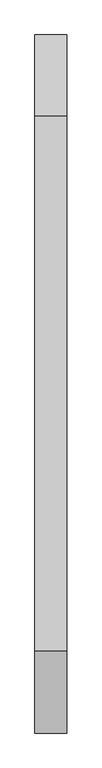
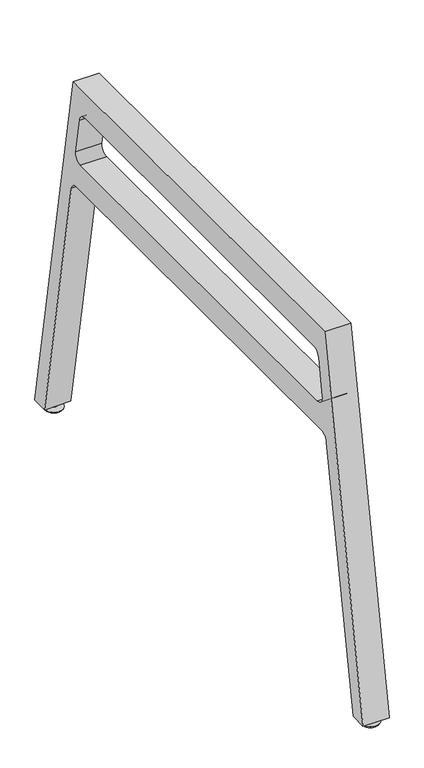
"""IFC4 building model written with IfcOpenShell, lengths in millimetres: furniture geometry, Steelcase Turnstone - Bivi - Table - Leg : 2D x 42 1/4W 28 1/2H."""

from ifc_helpers import new_model, si_unit, point, frame, frame_2d, origin, place, context, project, spatial, polyline, circle_curve, trimmed, segment, composite_curve, outline, extrude, source, transform, mapped, element, save
from ifc_brep_helpers import plane_surface, revolved_surface, spline_surface, advanced_brep


def furniture_5ffd5a01(model_context):
    return source(origin(), model_context, "Body", "SolidModel", [
        extrude(outline(composite_curve([segment(trimmed(circle_curve(frame_2d((24.5569238, 19.0749984)), 4.7559133), [point((19.8010105, 19.0749984))], [point((29.3128371, 19.0749984))], False, "CARTESIAN"), True, "CONTINUOUS"), segment(trimmed(circle_curve(frame_2d((24.5569238, 19.0749984)), 4.7559133), [point((29.3128371, 19.0749984))], [point((19.8010105, 19.0749984))], False, "CARTESIAN"), True, "CONTINUOUS")], self_intersect=False)), frame((0.0, 0.0, 13.97), z_axis=(0.0, 0.0, 1.0), x_axis=(1.0, 0.0, 0.0)), (0.0, 0.0, 1.0), 50.8),
        advanced_brep(
        [(18.6813191, 19.0778477, 10.16), (30.4074445, 19.0778477, 10.16), (17.7939505, 19.0282384, 6.584846), (31.2930423, 19.0282384, 6.584846)],
        [
            (0, 1, circle_curve(frame((24.5443818, 19.0778477, 10.16), z_axis=(0.0, 0.0, 1.0), x_axis=(1.0, 0.0, 0.0)), 5.8630627)),
            (1, 0, circle_curve(frame((24.5443818, 19.0778477, 10.16), z_axis=(0.0, 0.0, 1.0), x_axis=(1.0, 0.0, 0.0)), 5.8630627)),
            (2, 3, circle_curve(frame((24.5434964, 19.0282384, 6.584846), z_axis=(0.0, 0.0, -1.0), x_axis=(1.0, 0.0, 0.0)), 6.7495459)),
            (3, 2, circle_curve(frame((24.5434964, 19.0282384, 6.584846), z_axis=(0.0, 0.0, -1.0), x_axis=(1.0, 0.0, 0.0)), 6.7495459)),
            (3, 1),
            (0, 2),
        ],
        [
            plane_surface(frame((24.5443818, 19.0778477, 10.16), z_axis=(0.0, 0.0, 1.0), x_axis=(0.0, -1.0, 0.0))),
            plane_surface(frame((24.5434964, 19.0282384, 6.584846), z_axis=(0.0, 0.0, -1.0), x_axis=(0.0, -1.0, 0.0))),
            spline_surface(2, 1, [[(17.7939505, 19.0282384, 6.584846), (18.6813191, 19.0778477, 10.16)], [(17.7939505, 12.278692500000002, 6.584846), (18.6813191, 13.214785, 10.16)], [(24.5434964, 12.278692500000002, 6.584846), (24.5443818, 13.214785, 10.16)], [(31.293042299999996, 12.278692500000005, 6.584846), (30.4074445, 13.214785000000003, 10.16)], [(31.2930423, 19.0282384, 6.584846), (30.4074445, 19.0778477, 10.16)]], [3, 2, 3], [2, 2], [0.0, 1.0, 2.0], [0.0, 1.0], weights=[[1.0, 1.0], [0.7071067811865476, 0.7071067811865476], [1.0, 1.0], [0.7071067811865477, 0.7071067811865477], [1.0, 1.0]]),
            spline_surface(2, 1, [[(31.2930423, 19.0282384, 6.584846), (30.4074445, 19.0778477, 10.16)], [(31.2930423, 25.7777843, 6.584846), (30.4074445, 24.9409104, 10.16)], [(24.5434964, 25.7777843, 6.584846), (24.5443818, 24.9409104, 10.16)], [(17.793950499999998, 25.777784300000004, 6.584846), (18.6813191, 24.940910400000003, 10.16)], [(17.7939505, 19.0282384, 6.584846), (18.6813191, 19.0778477, 10.16)]], [3, 2, 3], [2, 2], [0.0, 1.0, 2.0], [0.0, 1.0], weights=[[1.0, 1.0], [0.7071067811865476, 0.7071067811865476], [1.0, 1.0], [0.7071067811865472, 0.7071067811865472], [1.0, 1.0]]),
        ],
        [
            (0, [[1, 2]]),
            (1, [[3, 4]]),
            (2, [[-4, 5, -1, 6]]),
            (3, [[-3, -6, -2, -5]]),
        ],
    ),
        extrude(outline(composite_curve([segment(trimmed(circle_curve(frame_2d((24.5669801, 19.1101669)), 8.0885268), [point((16.4784533, 19.1101669))], [point((32.6555069, 19.1101669))], False, "CARTESIAN"), True, "CONTINUOUS"), segment(trimmed(circle_curve(frame_2d((24.5669801, 19.1101669)), 8.0885268), [point((32.6555069, 19.1101669))], [point((16.4784533, 19.1101669))], False, "CARTESIAN"), True, "CONTINUOUS")], self_intersect=False)), frame((0.0, 0.0, 10.16), z_axis=(0.0, 0.0, 1.0), x_axis=(1.0, 0.0, 0.0)), (0.0, 0.0, 1.0), 3.81),
        advanced_brep(
        [(17.7442301, 19.0320697, 6.584846), (31.3154293, 19.0320697, 6.584846), (7.0485966, 18.932851, 3.2723529), (41.8364836, 18.932851, 3.2723529)],
        [
            (0, 1, circle_curve(frame((24.5298297, 19.0320697, 6.584846), z_axis=(0.0, 0.0, 1.0), x_axis=(1.0, 0.0, 0.0)), 6.7855996)),
            (1, 0, circle_curve(frame((24.5298297, 19.0320697, 6.584846), z_axis=(0.0, 0.0, 1.0), x_axis=(1.0, 0.0, 0.0)), 6.7855996)),
            (2, 3, circle_curve(frame((24.4425401, 18.932851, 3.2723529), z_axis=(0.0, 0.0, -1.0), x_axis=(1.0, 0.0, 0.0)), 17.3939435)),
            (3, 2, circle_curve(frame((24.4425401, 18.932851, 3.2723529), z_axis=(0.0, 0.0, -1.0), x_axis=(1.0, 0.0, 0.0)), 17.3939435)),
            (3, 1),
            (0, 2),
        ],
        [
            plane_surface(frame((24.5298297, 19.0320697, 6.584846), z_axis=(0.0, 0.0, 1.0), x_axis=(0.0, -1.0, 0.0))),
            plane_surface(frame((24.4425401, 18.932851, 3.2723529), z_axis=(0.0, 0.0, -1.0), x_axis=(0.0, -1.0, 0.0))),
            spline_surface(2, 1, [[(7.0485966, 18.932851, 3.2723529), (17.7442301, 19.0320697, 6.584846)], [(7.0485966, 1.5389075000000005, 3.2723529), (17.7442301, 12.2464701, 6.584846)], [(24.4425401, 1.5389075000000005, 3.2723529), (24.5298297, 12.2464701, 6.584846)], [(41.836483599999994, 1.538907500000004, 3.2723529), (31.3154293, 12.246470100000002, 6.584846)], [(41.8364836, 18.932851, 3.2723529), (31.3154293, 19.0320697, 6.584846)]], [3, 2, 3], [2, 2], [0.0, 1.0, 2.0], [0.0, 1.0], weights=[[1.0, 1.0], [0.7071067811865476, 0.7071067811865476], [1.0, 1.0], [0.7071067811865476, 0.7071067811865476], [1.0, 1.0]]),
            spline_surface(2, 1, [[(41.8364836, 18.932851, 3.2723529), (31.3154293, 19.0320697, 6.584846)], [(41.8364836, 36.326794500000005, 3.2723529), (31.3154293, 25.817669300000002, 6.584846)], [(24.4425401, 36.326794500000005, 3.2723529), (24.5298297, 25.817669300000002, 6.584846)], [(7.048596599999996, 36.326794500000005, 3.2723529), (17.7442301, 25.817669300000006, 6.584846)], [(7.0485966, 18.932851, 3.2723529), (17.7442301, 19.0320697, 6.584846)]], [3, 2, 3], [2, 2], [0.0, 1.0, 2.0], [0.0, 1.0], weights=[[1.0, 1.0], [0.7071067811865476, 0.7071067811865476], [1.0, 1.0], [0.7071067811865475, 0.7071067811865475], [1.0, 1.0]]),
        ],
        [
            (0, [[1, 2]]),
            (1, [[3, 4]]),
            (2, [[-4, 5, -1, 6]]),
            (3, [[-3, -6, -2, -5]]),
        ],
    ),
        advanced_brep(
        [(9.6227561, 19.1568354, 0.0), (39.4892983, 19.1568354, 0.0), (7.0611697, 19.1568354, 3.2723529), (42.0508847, 19.1568354, 3.2723529)],
        [
            (0, 1, circle_curve(frame((24.5560272, 19.1568354, 0.0), z_axis=(0.0, 0.0, -1.0), x_axis=(-1.0, 0.0, 0.0)), 14.9332711)),
            (1, 0, circle_curve(frame((24.5560272, 19.1568354, 0.0), z_axis=(0.0, 0.0, -1.0), x_axis=(1.0, 0.0, 0.0)), 14.9332711)),
            (2, 3, circle_curve(frame((24.5560272, 19.1568354, 3.2723529), z_axis=(0.0, 0.0, 1.0), x_axis=(1.0, 0.0, 0.0)), 17.4948575)),
            (3, 2, circle_curve(frame((24.5560272, 19.1568354, 3.2723529), z_axis=(0.0, 0.0, 1.0), x_axis=(-1.0, 0.0, 0.0)), 17.4948575)),
            (3, 1),
            (0, 2),
        ],
        [
            plane_surface(frame((24.5560272, 19.1568354, 0.0), z_axis=(0.0, 0.0, -1.0), x_axis=(0.0, -1.0, 0.0))),
            plane_surface(frame((24.5560272, 19.1568354, 3.2723529), z_axis=(0.0, 0.0, 1.0), x_axis=(0.0, -1.0, 0.0))),
            revolved_surface(polyline([(9.622756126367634, 19.1568354, 0.0), (7.061169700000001, 19.1568354, 3.2723529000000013)]), (24.5560272, 19.1568354, -19.0768238), (0.0, 0.0, 1.0)),
            revolved_surface(polyline([(39.489298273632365, 19.1568354, 0.0), (42.0508847, 19.1568354, 3.2723529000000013)]), (24.5560272, 19.1568354, -19.0768238), (0.0, 0.0, 1.0)),
        ],
        [
            (0, [[1, 2]]),
            (1, [[3, 4]]),
            (2, [[-4, 5, -1, 6]]),
            (3, [[-3, -6, -2, -5]]),
        ],
    ),
        extrude(outline(composite_curve([segment(polyline([(947.7462567, 723.9), (1073.1500121, 12.7000004), (1040.9102104, 12.7000004), (953.6734208, 507.4444497)]), True, "CONTINUOUS"), segment(trimmed(circle_curve(frame_2d((937.8760568, 504.6589483)), 16.0410638), [point((953.6734208, 507.4444497))], [point((937.8760568, 520.7000121))], True, "CARTESIAN"), True, "CONTINUOUS"), segment(polyline([(937.8760568, 520.7000121), (135.3200361, 520.7000121)]), True, "CONTINUOUS"), segment(trimmed(circle_curve(frame_2d((135.3200361, 504.6039936)), 16.0960185), [point((135.3200361, 520.7000121))], [point((119.468552, 507.3990362))], True, "CARTESIAN"), True, "CONTINUOUS"), segment(polyline([(119.468552, 507.3990362), (32.2398199, 12.7000004), (0.0, 12.7000004), (125.4037554, 723.9), (947.7462567, 723.9)]), True, "CONTINUOUS")], self_intersect=False), holes=[composite_curve([segment(polyline([(148.9336513, 571.5), (924.3402476, 571.5)]), True, "CONTINUOUS"), segment(trimmed(circle_curve(frame_2d((924.3402476, 586.6360581)), 15.1360581), [point((924.3402476, 571.5))], [point((939.2463549, 589.2644073))], True, "CARTESIAN"), True, "CONTINUOUS"), segment(polyline([(939.2463549, 589.2644073), (926.7918646, 659.8973224)]), True, "CONTINUOUS"), segment(trimmed(circle_curve(frame_2d((911.0575547, 657.1229387)), 15.9770371), [point((926.7918646, 659.8973224))], [point((911.0575547, 673.0999758))], True, "CARTESIAN"), True, "CONTINUOUS"), segment(polyline([(911.0575547, 673.0999758), (162.1134084, 673.0999758)]), True, "CONTINUOUS"), segment(trimmed(circle_curve(frame_2d((162.1134084, 657.0979758)), 16.002), [point((162.1134084, 673.0999758))], [point((146.3545145, 659.8766923))], True, "CARTESIAN"), True, "CONTINUOUS"), segment(polyline([(146.3545145, 659.8766923), (133.9251809, 589.3863967)]), True, "CONTINUOUS"), segment(trimmed(circle_curve(frame_2d((148.9336513, 586.74)), 15.24), [point((133.9251809, 589.3863967))], [point((148.9336513, 571.5))], True, "CARTESIAN"), True, "CONTINUOUS")], self_intersect=False)]), frame((0.0, 0.0, 0.0), z_axis=(1.0, 0.0, 0.0), x_axis=(0.0, 1.0, 0.0)), (0.0, 0.0, 1.0), 49.1236),
        extrude(outline(composite_curve([segment(trimmed(circle_curve(frame_2d((24.5569238, 1054.0750137)), 4.7559133), [point((19.8010105, 1054.0750137))], [point((29.3128371, 1054.0750137))], False, "CARTESIAN"), True, "CONTINUOUS"), segment(trimmed(circle_curve(frame_2d((24.5569238, 1054.0750137)), 4.7559133), [point((29.3128371, 1054.0750137))], [point((19.8010105, 1054.0750137))], False, "CARTESIAN"), True, "CONTINUOUS")], self_intersect=False)), frame((0.0, 0.0, 13.97), z_axis=(0.0, 0.0, 1.0), x_axis=(1.0, 0.0, 0.0)), (0.0, 0.0, 1.0), 50.8),
        advanced_brep(
        [(18.6813191, 1054.0721644, 10.16), (30.4074445, 1054.0721644, 10.16), (17.7939505, 1054.1217738, 6.584846), (31.2930423, 1054.1217738, 6.584846)],
        [
            (0, 1, circle_curve(frame((24.5443818, 1054.0721644, 10.16), z_axis=(0.0, 0.0, 1.0), x_axis=(1.0, 0.0, 0.0)), 5.8630627)),
            (1, 0, circle_curve(frame((24.5443818, 1054.0721644, 10.16), z_axis=(0.0, 0.0, 1.0), x_axis=(1.0, 0.0, 0.0)), 5.8630627)),
            (2, 3, circle_curve(frame((24.5434964, 1054.1217738, 6.584846), z_axis=(0.0, 0.0, -1.0), x_axis=(1.0, 0.0, 0.0)), 6.7495459)),
            (3, 2, circle_curve(frame((24.5434964, 1054.1217738, 6.584846), z_axis=(0.0, 0.0, -1.0), x_axis=(1.0, 0.0, 0.0)), 6.7495459)),
            (3, 1),
            (0, 2),
        ],
        [
            plane_surface(frame((24.5443818, 1054.0721644, 10.16), z_axis=(0.0, 0.0, 1.0), x_axis=(0.0, -1.0, 0.0))),
            plane_surface(frame((24.5434964, 1054.1217738, 6.584846), z_axis=(0.0, 0.0, -1.0), x_axis=(0.0, -1.0, 0.0))),
            spline_surface(2, 1, [[(17.7939505, 1054.1217738, 6.584846), (18.6813191, 1054.0721644, 10.16)], [(17.7939505, 1047.3722279, 6.584846), (18.6813191, 1048.2091017, 10.16)], [(24.5434964, 1047.3722279, 6.584846), (24.5443818, 1048.2091017, 10.16)], [(31.293042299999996, 1047.3722279, 6.584846), (30.4074445, 1048.2091017, 10.16)], [(31.2930423, 1054.1217738, 6.584846), (30.4074445, 1054.0721644, 10.16)]], [3, 2, 3], [2, 2], [0.0, 1.0, 2.0], [0.0, 1.0], weights=[[1.0, 1.0], [0.7071067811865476, 0.7071067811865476], [1.0, 1.0], [0.7071067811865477, 0.7071067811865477], [1.0, 1.0]]),
            spline_surface(2, 1, [[(31.2930423, 1054.1217738, 6.584846), (30.4074445, 1054.0721644, 10.16)], [(31.2930423, 1060.8713197, 6.584846), (30.4074445, 1059.9352271, 10.16)], [(24.5434964, 1060.8713197, 6.584846), (24.5443818, 1059.9352271, 10.16)], [(17.793950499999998, 1060.8713197, 6.584846), (18.6813191, 1059.9352271, 10.16)], [(17.7939505, 1054.1217738, 6.584846), (18.6813191, 1054.0721644, 10.16)]], [3, 2, 3], [2, 2], [0.0, 1.0, 2.0], [0.0, 1.0], weights=[[1.0, 1.0], [0.7071067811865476, 0.7071067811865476], [1.0, 1.0], [0.7071067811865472, 0.7071067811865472], [1.0, 1.0]]),
        ],
        [
            (0, [[1, 2]]),
            (1, [[3, 4]]),
            (2, [[-4, 5, -1, 6]]),
            (3, [[-3, -6, -2, -5]]),
        ],
    ),
        extrude(outline(composite_curve([segment(trimmed(circle_curve(frame_2d((24.5669801, 1054.0398453)), 8.0885268), [point((16.4784533, 1054.0398453))], [point((32.6555069, 1054.0398453))], False, "CARTESIAN"), True, "CONTINUOUS"), segment(trimmed(circle_curve(frame_2d((24.5669801, 1054.0398453)), 8.0885268), [point((32.6555069, 1054.0398453))], [point((16.4784533, 1054.0398453))], False, "CARTESIAN"), True, "CONTINUOUS")], self_intersect=False)), frame((0.0, 0.0, 10.16), z_axis=(0.0, 0.0, 1.0), x_axis=(1.0, 0.0, 0.0)), (0.0, 0.0, 1.0), 3.81),
        advanced_brep(
        [(17.7442301, 1054.1179424, 6.584846), (31.3154293, 1054.1179424, 6.584846), (7.0485966, 1054.2171611, 3.2723529), (41.8364836, 1054.2171611, 3.2723529)],
        [
            (0, 1, circle_curve(frame((24.5298297, 1054.1179424, 6.584846), z_axis=(0.0, 0.0, 1.0), x_axis=(1.0, 0.0, 0.0)), 6.7855996)),
            (1, 0, circle_curve(frame((24.5298297, 1054.1179424, 6.584846), z_axis=(0.0, 0.0, 1.0), x_axis=(1.0, 0.0, 0.0)), 6.7855996)),
            (2, 3, circle_curve(frame((24.4425401, 1054.2171611, 3.2723529), z_axis=(0.0, 0.0, -1.0), x_axis=(1.0, 0.0, 0.0)), 17.3939435)),
            (3, 2, circle_curve(frame((24.4425401, 1054.2171611, 3.2723529), z_axis=(0.0, 0.0, -1.0), x_axis=(1.0, 0.0, 0.0)), 17.3939435)),
            (3, 1),
            (0, 2),
        ],
        [
            plane_surface(frame((24.5298297, 1054.1179424, 6.584846), z_axis=(0.0, 0.0, 1.0), x_axis=(0.0, -1.0, 0.0))),
            plane_surface(frame((24.4425401, 1054.2171611, 3.2723529), z_axis=(0.0, 0.0, -1.0), x_axis=(0.0, -1.0, 0.0))),
            spline_surface(2, 1, [[(7.0485966, 1054.2171611, 3.2723529), (17.7442301, 1054.1179424, 6.584846)], [(7.0485966, 1036.8232176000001, 3.2723529), (17.7442301, 1047.3323427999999, 6.584846)], [(24.4425401, 1036.8232176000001, 3.2723529), (24.5298297, 1047.3323427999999, 6.584846)], [(41.836483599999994, 1036.8232176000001, 3.2723529), (31.3154293, 1047.3323427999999, 6.584846)], [(41.8364836, 1054.2171611, 3.2723529), (31.3154293, 1054.1179424, 6.584846)]], [3, 2, 3], [2, 2], [0.0, 1.0, 2.0], [0.0, 1.0], weights=[[1.0, 1.0], [0.7071067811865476, 0.7071067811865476], [1.0, 1.0], [0.7071067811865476, 0.7071067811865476], [1.0, 1.0]]),
            spline_surface(2, 1, [[(41.8364836, 1054.2171611, 3.2723529), (31.3154293, 1054.1179424, 6.584846)], [(41.8364836, 1071.6111046, 3.2723529), (31.3154293, 1060.903542, 6.584846)], [(24.4425401, 1071.6111046, 3.2723529), (24.5298297, 1060.903542, 6.584846)], [(7.048596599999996, 1071.6111046, 3.2723529), (17.7442301, 1060.903542, 6.584846)], [(7.0485966, 1054.2171611, 3.2723529), (17.7442301, 1054.1179424, 6.584846)]], [3, 2, 3], [2, 2], [0.0, 1.0, 2.0], [0.0, 1.0], weights=[[1.0, 1.0], [0.7071067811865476, 0.7071067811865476], [1.0, 1.0], [0.7071067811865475, 0.7071067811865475], [1.0, 1.0]]),
        ],
        [
            (0, [[1, 2]]),
            (1, [[3, 4]]),
            (2, [[-4, 5, -1, 6]]),
            (3, [[-3, -6, -2, -5]]),
        ],
    ),
        advanced_brep(
        [(9.6227561, 1053.9931767, 0.0), (39.4892983, 1053.9931767, 0.0), (7.0611697, 1053.9931767, 3.2723529), (42.0508847, 1053.9931767, 3.2723529)],
        [
            (0, 1, circle_curve(frame((24.5560272, 1053.9931767, 0.0), z_axis=(0.0, 0.0, -1.0), x_axis=(-1.0, 0.0, 0.0)), 14.9332711)),
            (1, 0, circle_curve(frame((24.5560272, 1053.9931767, 0.0), z_axis=(0.0, 0.0, -1.0), x_axis=(1.0, 0.0, 0.0)), 14.9332711)),
            (2, 3, circle_curve(frame((24.5560272, 1053.9931767, 3.2723529), z_axis=(0.0, 0.0, 1.0), x_axis=(1.0, 0.0, 0.0)), 17.4948575)),
            (3, 2, circle_curve(frame((24.5560272, 1053.9931767, 3.2723529), z_axis=(0.0, 0.0, 1.0), x_axis=(-1.0, 0.0, 0.0)), 17.4948575)),
            (3, 1),
            (0, 2),
        ],
        [
            plane_surface(frame((24.5560272, 1053.9931767, 0.0), z_axis=(0.0, 0.0, -1.0), x_axis=(0.0, -1.0, 0.0))),
            plane_surface(frame((24.5560272, 1053.9931767, 3.2723529), z_axis=(0.0, 0.0, 1.0), x_axis=(0.0, -1.0, 0.0))),
            revolved_surface(polyline([(9.622756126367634, 1053.9931767, 0.0), (7.061169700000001, 1053.9931767, 3.2723529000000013)]), (24.5560272, 1053.9931767, -19.0768238), (0.0, 0.0, 1.0)),
            revolved_surface(polyline([(39.489298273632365, 1053.9931767, 0.0), (42.0508847, 1053.9931767, 3.2723529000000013)]), (24.5560272, 1053.9931767, -19.0768238), (0.0, 0.0, 1.0)),
        ],
        [
            (0, [[1, 2]]),
            (1, [[3, 4]]),
            (2, [[-4, 5, -1, 6]]),
            (3, [[-3, -6, -2, -5]]),
        ],
    ),
    ])


if __name__ == "__main__":
    model = new_model("IFC4")
    model_context = context("Model", 3, world=origin())
    ifc_project = project(units=[si_unit("LENGTHUNIT", "METRE", prefix="MILLI")], contexts=[model_context])
    site = spatial("IfcSite", under=ifc_project)
    building = spatial("IfcBuilding", under=site)
    placement = place(None, origin())
    furniture_shape = furniture_5ffd5a01(model_context)
    element("IfcFurniture", 1, ObjectType="Steelcase Turnstone - Bivi - Table - Leg : 2D x 42 1/4W 28 1/2H", at=placement, inside=building, context=model_context, shape_type="MappedRepresentation", body=[
        mapped(furniture_shape, transform((0.0, 0.0, 0.0), x_axis=(1.0, 0.0, 0.0), y_axis=(0.0, 1.0, 0.0), z_axis=(0.0, 0.0, 1.0))),
    ])
    save(model, "model.ifc")
